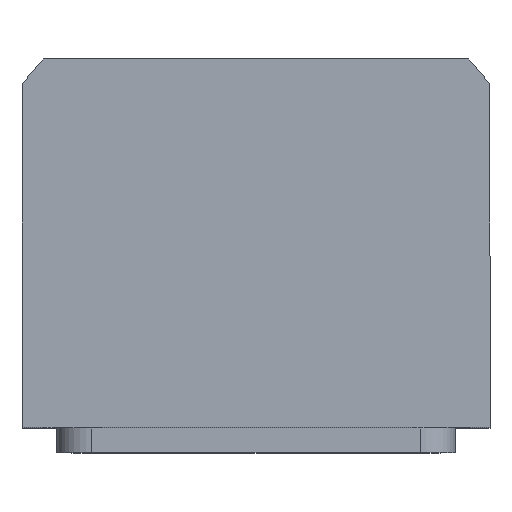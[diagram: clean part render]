
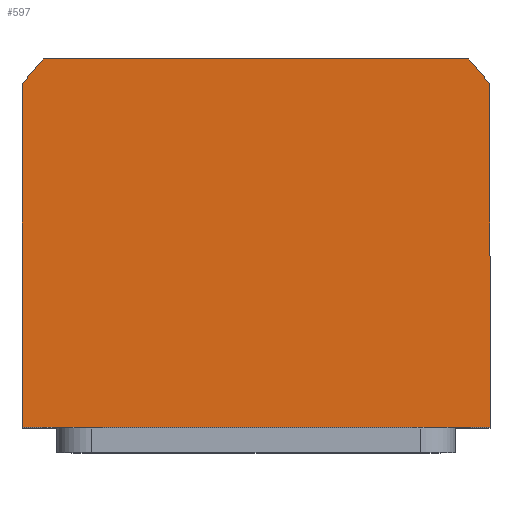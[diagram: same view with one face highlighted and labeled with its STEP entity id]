
A CAD part, top view. The second image highlights one B-rep face of the part: STEP entity #597.
In plain terms, the highlighted planar face has unit normal (0, 0, 1).
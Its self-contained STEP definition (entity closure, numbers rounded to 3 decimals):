
#251 = EDGE_CURVE ( 'NONE', #5446, #6730, #9904, .T. ) ;
#596 = VECTOR ( 'NONE', #4315, 1000. ) ;
#597 = ADVANCED_FACE ( 'NONE', ( #5265 ), #6931, .T. ) ;
#1669 = DIRECTION ( 'NONE',  ( 1., 0., 0. ) ) ;
#1847 = CARTESIAN_POINT ( 'NONE',  ( 0., 0., 55. ) ) ;
#2541 = DIRECTION ( 'NONE',  ( 0., 0., 1. ) ) ;
#2602 = VERTEX_POINT ( 'NONE', #6687 ) ;
#2667 = DIRECTION ( 'NONE',  ( 0., 0., 1. ) ) ;
#2860 = AXIS2_PLACEMENT_3D ( 'NONE', #3105, #9226, #5981 ) ;
#3098 = EDGE_CURVE ( 'NONE', #7408, #2602, #9049, .T. ) ;
#3105 = CARTESIAN_POINT ( 'NONE',  ( 0., 0., 55. ) ) ;
#3539 = DIRECTION ( 'NONE',  ( -1., 0., 0. ) ) ;
#3674 = LINE ( 'NONE', #4425, #7126 ) ;
#4315 = DIRECTION ( 'NONE',  ( 0., -1., 0. ) ) ;
#4425 = CARTESIAN_POINT ( 'NONE',  ( -42.688, 40., 55. ) ) ;
#4995 = LINE ( 'NONE', #5398, #7601 ) ;
#5225 = DIRECTION ( 'NONE',  ( 1., 0., 0. ) ) ;
#5258 = AXIS2_PLACEMENT_3D ( 'NONE', #9526, #2541, #11258 ) ;
#5265 = FACE_OUTER_BOUND ( 'NONE', #7660, .T. ) ;
#5281 = ORIENTED_EDGE ( 'NONE', *, *, #10062, .T. ) ;
#5398 = CARTESIAN_POINT ( 'NONE',  ( 47., 34.832, 55. ) ) ;
#5444 = AXIS2_PLACEMENT_3D ( 'NONE', #1847, #2667, #5225 ) ;
#5446 = VERTEX_POINT ( 'NONE', #7651 ) ;
#5865 = CARTESIAN_POINT ( 'NONE',  ( 47., -34., 55. ) ) ;
#5981 = DIRECTION ( 'NONE',  ( 1., 0., 0. ) ) ;
#6421 = LINE ( 'NONE', #5865, #10513 ) ;
#6441 = ORIENTED_EDGE ( 'NONE', *, *, #7951, .T. ) ;
#6687 = CARTESIAN_POINT ( 'NONE',  ( 42.688, 40., 55. ) ) ;
#6705 = VERTEX_POINT ( 'NONE', #9479 ) ;
#6730 = VERTEX_POINT ( 'NONE', #7836 ) ;
#6931 = PLANE ( 'NONE',  #5258 ) ;
#7126 = VECTOR ( 'NONE', #3539, 1000. ) ;
#7408 = VERTEX_POINT ( 'NONE', #10251 ) ;
#7601 = VECTOR ( 'NONE', #8114, 1000. ) ;
#7651 = CARTESIAN_POINT ( 'NONE',  ( -47., 34.832, 55. ) ) ;
#7660 = EDGE_LOOP ( 'NONE', ( #5281, #10342, #10739, #10609, #6441, #10385 ) ) ;
#7836 = CARTESIAN_POINT ( 'NONE',  ( -47., -34., 55. ) ) ;
#7951 = EDGE_CURVE ( 'NONE', #11306, #5446, #9045, .T. ) ;
#8027 = CARTESIAN_POINT ( 'NONE',  ( -42.688, 40., 55. ) ) ;
#8114 = DIRECTION ( 'NONE',  ( 0., 1., 0. ) ) ;
#8654 = CARTESIAN_POINT ( 'NONE',  ( -47., -34., 55. ) ) ;
#9045 = CIRCLE ( 'NONE', #5444, 58.5 ) ;
#9049 = CIRCLE ( 'NONE', #2860, 58.5 ) ;
#9226 = DIRECTION ( 'NONE',  ( 0., 0., 1. ) ) ;
#9479 = CARTESIAN_POINT ( 'NONE',  ( 47., -34., 55. ) ) ;
#9526 = CARTESIAN_POINT ( 'NONE',  ( 0., 0., 55. ) ) ;
#9904 = LINE ( 'NONE', #8654, #596 ) ;
#10062 = EDGE_CURVE ( 'NONE', #6730, #6705, #6421, .T. ) ;
#10251 = CARTESIAN_POINT ( 'NONE',  ( 47., 34.832, 55. ) ) ;
#10342 = ORIENTED_EDGE ( 'NONE', *, *, #10566, .T. ) ;
#10385 = ORIENTED_EDGE ( 'NONE', *, *, #251, .T. ) ;
#10513 = VECTOR ( 'NONE', #1669, 1000. ) ;
#10566 = EDGE_CURVE ( 'NONE', #6705, #7408, #4995, .T. ) ;
#10609 = ORIENTED_EDGE ( 'NONE', *, *, #11222, .T. ) ;
#10739 = ORIENTED_EDGE ( 'NONE', *, *, #3098, .T. ) ;
#11222 = EDGE_CURVE ( 'NONE', #2602, #11306, #3674, .T. ) ;
#11258 = DIRECTION ( 'NONE',  ( 1., 0., 0. ) ) ;
#11306 = VERTEX_POINT ( 'NONE', #8027 ) ;
